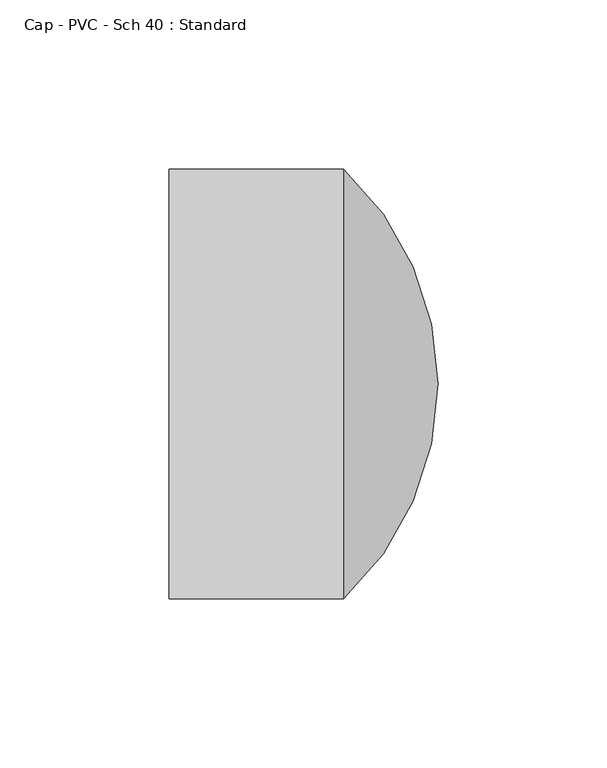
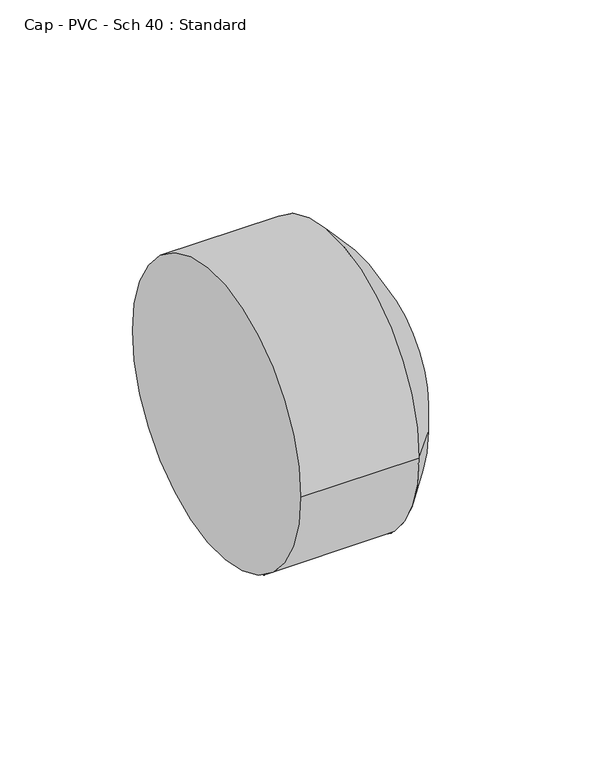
"""IFC4 building model written with IfcOpenShell, lengths in millimetres: pipe fitting geometry, Cap - PVC - Sch 40 : Standard."""

from ifc_helpers import new_model, si_unit, point, frame, origin, origin_2d, place, context, project, spatial, circle_curve, ellipse_curve, trimmed, segment, composite_curve, outline, extrude, source, transform, mapped, element, save
from ifc_brep_helpers import plane_surface, revolved_surface, advanced_brep


def cap_pvc_sch_40_standard_fd01d818(model_context):
    return source(origin(), model_context, "Body", "SolidModel", [
        extrude(outline(composite_curve([segment(trimmed(circle_curve(origin_2d(), 63.5), [point((-63.5, 0.0))], [point((63.5, 0.0))], False, "CARTESIAN"), True, "CONTINUOUS"), segment(trimmed(circle_curve(origin_2d(), 63.5), [point((63.5, 0.0))], [point((-63.5, 0.0))], False, "CARTESIAN"), True, "CONTINUOUS")], self_intersect=False)), frame((0.0, 0.0, 0.0), z_axis=(1.0, 0.0, 0.0), x_axis=(0.0, 1.0, 0.0)), (0.0, 0.0, 1.0), 51.562),
        advanced_brep(
        [(51.562, -63.5, 0.0), (51.562, 63.5, 0.0), (79.502, 0.0, 0.0), (51.562, 0.0, 0.0)],
        [
            (0, 1, circle_curve(frame((51.562, 0.0, 0.0), z_axis=(1.0, 0.0, 0.0), x_axis=(0.0, 1.0, 0.0)), 63.5)),
            (1, 2, circle_curve(frame((-6.6270909, 0.0, 0.0), z_axis=(0.0, 0.0, -1.0), x_axis=(1.0, 0.0, 0.0)), 86.1290909)),
            (2, 0, circle_curve(frame((-6.6270909, 0.0, 0.0), z_axis=(0.0, 0.0, -1.0), x_axis=(1.0, 0.0, 0.0)), 86.1290909)),
            (1, 0, circle_curve(frame((51.562, 0.0, 0.0), z_axis=(1.0, 0.0, 0.0), x_axis=(0.0, 1.0, 0.0)), 63.5)),
            (3, 1),
            (0, 3),
        ],
        [
            revolved_surface(trimmed(ellipse_curve(frame((-6.6270909, 0.0, 0.0), z_axis=(0.0, 0.0, 1.0), x_axis=(1.0, 0.0, 0.0)), 86.1290909, 86.1290909), [point((79.502, 0.0, 0.0))], [point((51.562, 63.5, 0.0))], True, "CARTESIAN"), (-6.6270909, 0.0, 0.0), (-1.0, 0.0, 0.0)),
            plane_surface(frame((51.562, 0.0, 0.0), z_axis=(-1.0, 0.0, 0.0), x_axis=(0.0, 1.0, 0.0))),
        ],
        [
            (0, [[1, 2, 3]]),
            (0, [[4, -3, -2]]),
            (1, [[5, -1, 6]]),
            (1, [[-6, -4, -5]]),
        ],
    ),
    ])


if __name__ == "__main__":
    model = new_model("IFC4")
    model_context = context("Model", 3, world=origin())
    ifc_project = project(units=[si_unit("LENGTHUNIT", "METRE", prefix="MILLI")], contexts=[model_context])
    site = spatial("IfcSite", under=ifc_project)
    building = spatial("IfcBuilding", under=site)
    placement = place(None, origin())
    cap_pvc_sch_40_standard_shape = cap_pvc_sch_40_standard_fd01d818(model_context)
    element("IfcPipeFitting", 1, ObjectType="Cap - PVC - Sch 40 : Standard", at=placement, inside=building, context=model_context, shape_type="MappedRepresentation", body=[
        mapped(cap_pvc_sch_40_standard_shape, transform((0.0, 0.0, 0.0), x_axis=(1.0, 0.0, 0.0), y_axis=(0.0, 1.0, 0.0), z_axis=(0.0, 0.0, 1.0))),
    ])
    save(model, "model.ifc")
